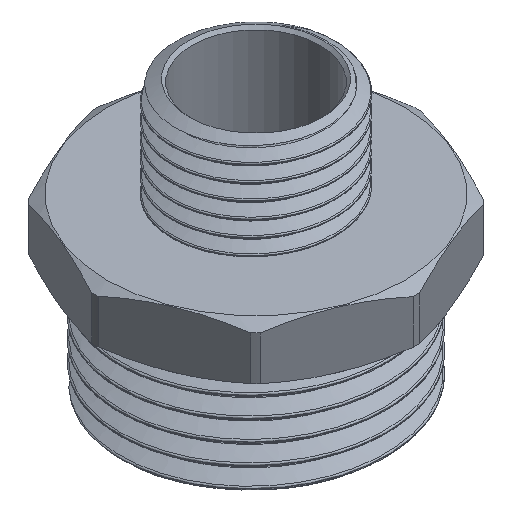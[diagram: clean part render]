
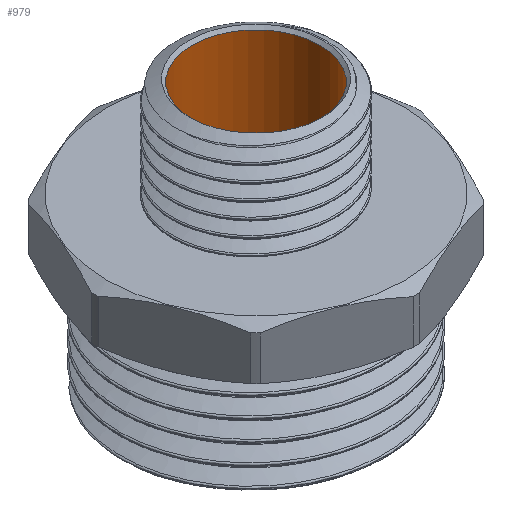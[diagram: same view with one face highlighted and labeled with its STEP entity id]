
A CAD part, isometric view. The second image highlights one B-rep face of the part: STEP entity #979.
In plain terms, the highlighted cylindrical face has radius 7.25 mm (diameter 14.5 mm), a full revolution.
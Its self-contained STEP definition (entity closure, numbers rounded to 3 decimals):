
#112=FACE_OUTER_BOUND('',#167,.T.);
#167=EDGE_LOOP('',(#870,#871,#872,#873,#874,#875));
#205=CIRCLE('',#1069,7.25);
#206=CIRCLE('',#1070,7.25);
#207=CIRCLE('',#1072,7.25);
#208=CIRCLE('',#1073,7.25);
#309=LINE('',#8620,#344);
#344=VECTOR('',#1251,7.25);
#442=VERTEX_POINT('',#8613);
#443=VERTEX_POINT('',#8615);
#444=VERTEX_POINT('',#8619);
#445=VERTEX_POINT('',#8621);
#591=EDGE_CURVE('',#443,#442,#205,.T.);
#592=EDGE_CURVE('',#442,#443,#206,.T.);
#593=EDGE_CURVE('',#442,#444,#309,.T.);
#594=EDGE_CURVE('',#445,#444,#207,.T.);
#595=EDGE_CURVE('',#444,#445,#208,.T.);
#870=ORIENTED_EDGE('',*,*,#591,.T.);
#871=ORIENTED_EDGE('',*,*,#593,.T.);
#872=ORIENTED_EDGE('',*,*,#594,.F.);
#873=ORIENTED_EDGE('',*,*,#595,.F.);
#874=ORIENTED_EDGE('',*,*,#593,.F.);
#875=ORIENTED_EDGE('',*,*,#592,.T.);
#930=CYLINDRICAL_SURFACE('',#1071,7.25);
#979=ADVANCED_FACE('',(#112),#930,.F.);
#1069=AXIS2_PLACEMENT_3D('',#8616,#1245,#1246);
#1070=AXIS2_PLACEMENT_3D('',#8617,#1247,#1248);
#1071=AXIS2_PLACEMENT_3D('',#8618,#1249,#1250);
#1072=AXIS2_PLACEMENT_3D('',#8622,#1252,#1253);
#1073=AXIS2_PLACEMENT_3D('',#8623,#1254,#1255);
#1245=DIRECTION('center_axis',(0.,0.,1.));
#1246=DIRECTION('ref_axis',(1.,0.,0.));
#1247=DIRECTION('center_axis',(0.,0.,1.));
#1248=DIRECTION('ref_axis',(1.,0.,0.));
#1249=DIRECTION('center_axis',(0.,0.,1.));
#1250=DIRECTION('ref_axis',(0.,-1.,0.));
#1251=DIRECTION('',(0.,0.,-1.));
#1252=DIRECTION('center_axis',(0.,0.,1.));
#1253=DIRECTION('ref_axis',(1.,0.,0.));
#1254=DIRECTION('center_axis',(0.,0.,1.));
#1255=DIRECTION('ref_axis',(1.,0.,0.));
#8613=CARTESIAN_POINT('',(0.,7.25,30.996));
#8615=CARTESIAN_POINT('',(0.,-7.25,30.996));
#8616=CARTESIAN_POINT('Origin',(0.,0.,30.996));
#8617=CARTESIAN_POINT('Origin',(0.,0.,30.996));
#8618=CARTESIAN_POINT('Origin',(0.,0.,24.396));
#8619=CARTESIAN_POINT('',(0.,7.25,17.796));
#8620=CARTESIAN_POINT('',(0.,7.25,24.396));
#8621=CARTESIAN_POINT('',(0.,-7.25,17.796));
#8622=CARTESIAN_POINT('Origin',(0.,0.,17.796));
#8623=CARTESIAN_POINT('Origin',(0.,0.,17.796));
